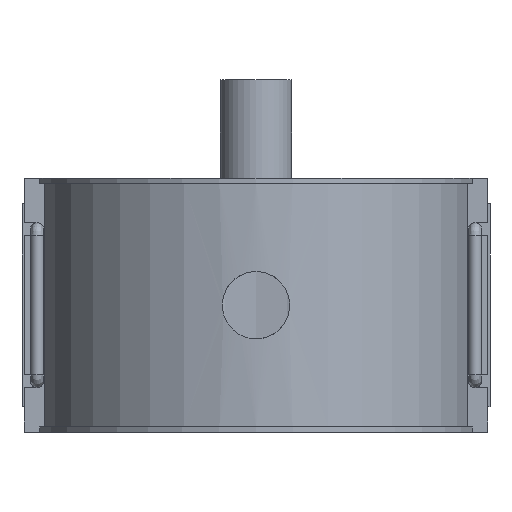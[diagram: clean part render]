
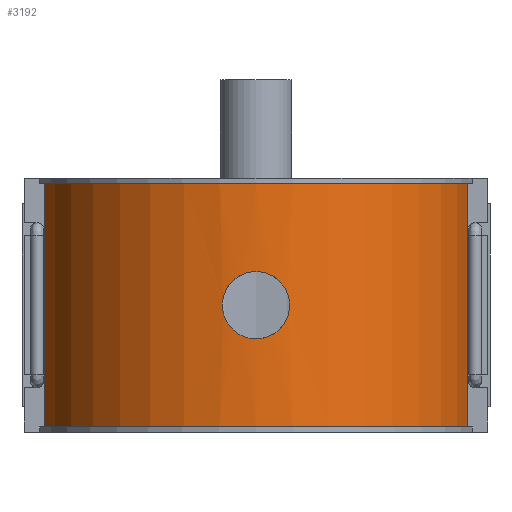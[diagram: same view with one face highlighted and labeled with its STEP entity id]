
A CAD part, front view. The second image highlights one B-rep face of the part: STEP entity #3192.
In plain terms, the highlighted cylindrical face has radius 100.8 mm (diameter 201.6 mm), a partial arc.
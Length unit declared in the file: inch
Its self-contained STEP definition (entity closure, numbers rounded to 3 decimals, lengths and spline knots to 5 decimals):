
#43=FACE_BOUND('',#438,.T.);
#189=B_SPLINE_CURVE_WITH_KNOTS('',3,(#4721,#4722,#4723,#4724,#4725,#4726,
#4727,#4728,#4729,#4730,#4731,#4732,#4733,#4734,#4735,#4736,#4737,#4738,
#4739,#4740,#4741,#4742,#4743,#4744,#4745,#4746,#4747,#4748,#4749,#4750,
#4751,#4752,#4753,#4754),.UNSPECIFIED.,.F.,.F.,(4,2,2,2,2,2,2,2,2,2,2,2,
2,2,2,2,4),(0.,0.29584,0.59168,0.88753,1.18337,
1.4792,1.77504,2.07088,2.36671,2.66255,
2.95838,3.25422,3.55006,3.8459,4.14174,
4.43758,4.73342),.UNSPECIFIED.);
#190=B_SPLINE_CURVE_WITH_KNOTS('',3,(#4755,#4756,#4757,#4758,#4759,#4760,
#4761,#4762,#4763,#4764,#4765,#4766,#4767,#4768,#4769,#4770,#4771,#4772,
#4773,#4774,#4775,#4776,#4777,#4778,#4779,#4780,#4781,#4782,#4783,#4784,
#4785,#4786,#4787,#4788),.UNSPECIFIED.,.F.,.F.,(4,2,2,2,2,2,2,2,2,2,2,2,
2,2,2,2,4),(4.73342,5.02927,5.32511,5.62095,
5.91679,6.21263,6.50847,6.8043,7.10014,
7.39597,7.69181,7.98765,8.28348,8.57932,
8.87517,9.17101,9.46685),.UNSPECIFIED.);
#247=FACE_OUTER_BOUND('',#437,.T.);
#437=EDGE_LOOP('',(#2288,#2289,#2290,#2291));
#438=EDGE_LOOP('',(#2292,#2293));
#639=CIRCLE('',#3401,3.9685);
#647=CIRCLE('',#3415,3.9685);
#784=LINE('',#5057,#1086);
#819=LINE('',#5286,#1121);
#1086=VECTOR('',#3760,0.3937);
#1121=VECTOR('',#3837,0.3937);
#1380=VERTEX_POINT('',#4718);
#1381=VERTEX_POINT('',#4720);
#1397=VERTEX_POINT('',#5042);
#1398=VERTEX_POINT('',#5044);
#1402=VERTEX_POINT('',#5056);
#1419=VERTEX_POINT('',#5099);
#1694=EDGE_CURVE('',#1381,#1380,#189,.T.);
#1695=EDGE_CURVE('',#1380,#1381,#190,.T.);
#1716=EDGE_CURVE('',#1397,#1398,#639,.T.);
#1721=EDGE_CURVE('',#1397,#1402,#784,.T.);
#1743=EDGE_CURVE('',#1419,#1402,#647,.T.);
#1778=EDGE_CURVE('',#1398,#1419,#819,.T.);
#2288=ORIENTED_EDGE('',*,*,#1716,.T.);
#2289=ORIENTED_EDGE('',*,*,#1778,.T.);
#2290=ORIENTED_EDGE('',*,*,#1743,.T.);
#2291=ORIENTED_EDGE('',*,*,#1721,.F.);
#2292=ORIENTED_EDGE('',*,*,#1694,.T.);
#2293=ORIENTED_EDGE('',*,*,#1695,.T.);
#3136=CYLINDRICAL_SURFACE('',#3425,3.9685);
#3192=ADVANCED_FACE('',(#247,#43),#3136,.T.);
#3401=AXIS2_PLACEMENT_3D('',#5046,#3750,#3751);
#3415=AXIS2_PLACEMENT_3D('',#5100,#3797,#3798);
#3425=AXIS2_PLACEMENT_3D('',#5287,#3838,#3839);
#3750=DIRECTION('center_axis',(0.,0.,1.));
#3751=DIRECTION('ref_axis',(1.,0.,0.));
#3760=DIRECTION('',(0.,0.,1.));
#3797=DIRECTION('center_axis',(0.,0.,-1.));
#3798=DIRECTION('ref_axis',(1.,0.,0.));
#3837=DIRECTION('',(0.,0.,1.));
#3838=DIRECTION('center_axis',(0.,0.,1.));
#3839=DIRECTION('ref_axis',(1.,0.,0.));
#4718=CARTESIAN_POINT('',(-0.61732,-3.9202,0.));
#4720=CARTESIAN_POINT('',(0.61732,-3.9202,0.));
#4721=CARTESIAN_POINT('Ctrl Pts',(0.61732,-3.9202,0.));
#4722=CARTESIAN_POINT('Ctrl Pts',(0.61732,-3.9202,-0.03882));
#4723=CARTESIAN_POINT('Ctrl Pts',(0.6136,-3.92079,-0.07895));
#4724=CARTESIAN_POINT('Ctrl Pts',(0.59795,-3.92321,-0.15874));
#4725=CARTESIAN_POINT('Ctrl Pts',(0.58602,-3.92503,-0.1984));
#4726=CARTESIAN_POINT('Ctrl Pts',(0.5545,-3.92961,-0.27443));
#4727=CARTESIAN_POINT('Ctrl Pts',(0.53488,-3.93236,-0.31086));
#4728=CARTESIAN_POINT('Ctrl Pts',(0.48958,-3.93826,-0.37822));
#4729=CARTESIAN_POINT('Ctrl Pts',(0.46388,-3.9414,-0.40914));
#4730=CARTESIAN_POINT('Ctrl Pts',(0.40914,-3.94745,-0.46388));
#4731=CARTESIAN_POINT('Ctrl Pts',(0.37822,-3.95058,-0.48958));
#4732=CARTESIAN_POINT('Ctrl Pts',(0.31086,-3.95645,-0.53488));
#4733=CARTESIAN_POINT('Ctrl Pts',(0.27443,-3.95919,-0.5545));
#4734=CARTESIAN_POINT('Ctrl Pts',(0.1984,-3.96372,-0.58602));
#4735=CARTESIAN_POINT('Ctrl Pts',(0.15874,-3.96553,-0.59795));
#4736=CARTESIAN_POINT('Ctrl Pts',(0.07895,-3.96792,
-0.6136));
#4737=CARTESIAN_POINT('Ctrl Pts',(0.03882,-3.9685,
-0.61732));
#4738=CARTESIAN_POINT('Ctrl Pts',(-0.03882,-3.9685,
-0.61732));
#4739=CARTESIAN_POINT('Ctrl Pts',(-0.07895,-3.96792,
-0.6136));
#4740=CARTESIAN_POINT('Ctrl Pts',(-0.15874,-3.96553,
-0.59795));
#4741=CARTESIAN_POINT('Ctrl Pts',(-0.1984,-3.96372,
-0.58602));
#4742=CARTESIAN_POINT('Ctrl Pts',(-0.27443,-3.95919,
-0.5545));
#4743=CARTESIAN_POINT('Ctrl Pts',(-0.31086,-3.95645,
-0.53488));
#4744=CARTESIAN_POINT('Ctrl Pts',(-0.37822,-3.95058,
-0.48958));
#4745=CARTESIAN_POINT('Ctrl Pts',(-0.40914,-3.94745,
-0.46388));
#4746=CARTESIAN_POINT('Ctrl Pts',(-0.46388,-3.9414,
-0.40914));
#4747=CARTESIAN_POINT('Ctrl Pts',(-0.48958,-3.93826,
-0.37822));
#4748=CARTESIAN_POINT('Ctrl Pts',(-0.53488,-3.93236,
-0.31086));
#4749=CARTESIAN_POINT('Ctrl Pts',(-0.5545,-3.92961,
-0.27443));
#4750=CARTESIAN_POINT('Ctrl Pts',(-0.58602,-3.92503,-0.1984));
#4751=CARTESIAN_POINT('Ctrl Pts',(-0.59795,-3.92321,
-0.15874));
#4752=CARTESIAN_POINT('Ctrl Pts',(-0.6136,-3.92079,
-0.07895));
#4753=CARTESIAN_POINT('Ctrl Pts',(-0.61732,-3.9202,
-0.03882));
#4754=CARTESIAN_POINT('Ctrl Pts',(-0.61732,-3.9202,
0.));
#4755=CARTESIAN_POINT('Ctrl Pts',(-0.61732,-3.9202,
0.));
#4756=CARTESIAN_POINT('Ctrl Pts',(-0.61732,-3.9202,
0.03882));
#4757=CARTESIAN_POINT('Ctrl Pts',(-0.6136,-3.92079,
0.07895));
#4758=CARTESIAN_POINT('Ctrl Pts',(-0.59795,-3.92321,
0.15874));
#4759=CARTESIAN_POINT('Ctrl Pts',(-0.58602,-3.92503,0.1984));
#4760=CARTESIAN_POINT('Ctrl Pts',(-0.5545,-3.92961,0.27443));
#4761=CARTESIAN_POINT('Ctrl Pts',(-0.53488,-3.93236,
0.31086));
#4762=CARTESIAN_POINT('Ctrl Pts',(-0.48958,-3.93826,
0.37822));
#4763=CARTESIAN_POINT('Ctrl Pts',(-0.46388,-3.9414,
0.40914));
#4764=CARTESIAN_POINT('Ctrl Pts',(-0.40914,-3.94745,
0.46388));
#4765=CARTESIAN_POINT('Ctrl Pts',(-0.37822,-3.95058,
0.48958));
#4766=CARTESIAN_POINT('Ctrl Pts',(-0.31086,-3.95645,
0.53488));
#4767=CARTESIAN_POINT('Ctrl Pts',(-0.27443,-3.95919,
0.5545));
#4768=CARTESIAN_POINT('Ctrl Pts',(-0.1984,-3.96372,
0.58602));
#4769=CARTESIAN_POINT('Ctrl Pts',(-0.15874,-3.96553,
0.59795));
#4770=CARTESIAN_POINT('Ctrl Pts',(-0.07895,-3.96792,
0.6136));
#4771=CARTESIAN_POINT('Ctrl Pts',(-0.03882,-3.9685,
0.61732));
#4772=CARTESIAN_POINT('Ctrl Pts',(0.03882,-3.9685,
0.61732));
#4773=CARTESIAN_POINT('Ctrl Pts',(0.07895,-3.96792,
0.6136));
#4774=CARTESIAN_POINT('Ctrl Pts',(0.15874,-3.96553,0.59795));
#4775=CARTESIAN_POINT('Ctrl Pts',(0.1984,-3.96372,0.58602));
#4776=CARTESIAN_POINT('Ctrl Pts',(0.27443,-3.95919,0.5545));
#4777=CARTESIAN_POINT('Ctrl Pts',(0.31086,-3.95645,0.53488));
#4778=CARTESIAN_POINT('Ctrl Pts',(0.37822,-3.95058,0.48958));
#4779=CARTESIAN_POINT('Ctrl Pts',(0.40914,-3.94745,0.46388));
#4780=CARTESIAN_POINT('Ctrl Pts',(0.46388,-3.9414,0.40914));
#4781=CARTESIAN_POINT('Ctrl Pts',(0.48958,-3.93826,0.37822));
#4782=CARTESIAN_POINT('Ctrl Pts',(0.53488,-3.93236,0.31086));
#4783=CARTESIAN_POINT('Ctrl Pts',(0.5545,-3.92961,0.27443));
#4784=CARTESIAN_POINT('Ctrl Pts',(0.58602,-3.92503,0.1984));
#4785=CARTESIAN_POINT('Ctrl Pts',(0.59795,-3.92321,0.15874));
#4786=CARTESIAN_POINT('Ctrl Pts',(0.6136,-3.92079,0.07895));
#4787=CARTESIAN_POINT('Ctrl Pts',(0.61732,-3.9202,0.03882));
#4788=CARTESIAN_POINT('Ctrl Pts',(0.61732,-3.9202,0.));
#5042=CARTESIAN_POINT('',(-3.88143,-0.82677,-2.232));
#5044=CARTESIAN_POINT('',(3.88143,-0.82677,-2.232));
#5046=CARTESIAN_POINT('Origin',(0.,0.,-2.232));
#5056=CARTESIAN_POINT('',(-3.88143,-0.82677,2.232));
#5057=CARTESIAN_POINT('',(-3.88143,-0.82677,0.));
#5099=CARTESIAN_POINT('',(3.88143,-0.82677,2.232));
#5100=CARTESIAN_POINT('Origin',(0.,0.,2.232));
#5286=CARTESIAN_POINT('',(3.88143,-0.82677,0.));
#5287=CARTESIAN_POINT('Origin',(0.,0.,0.));
